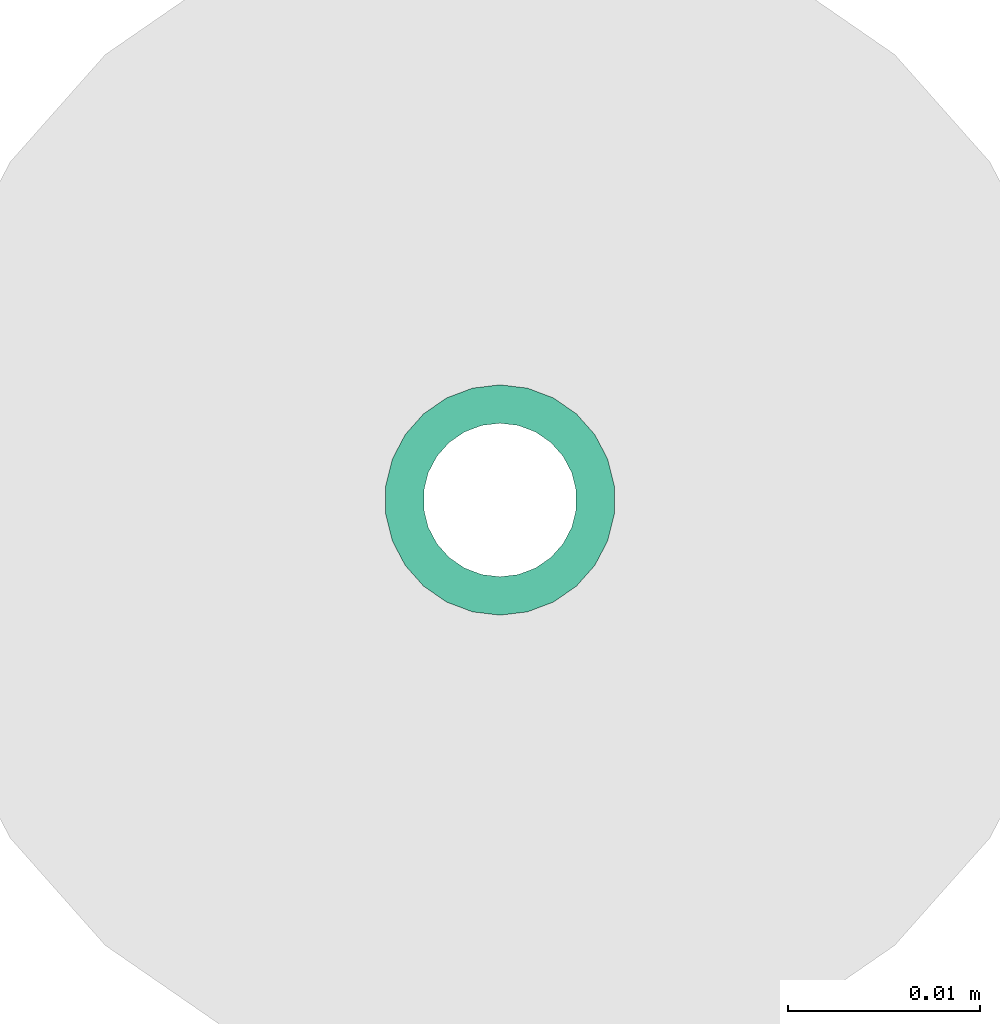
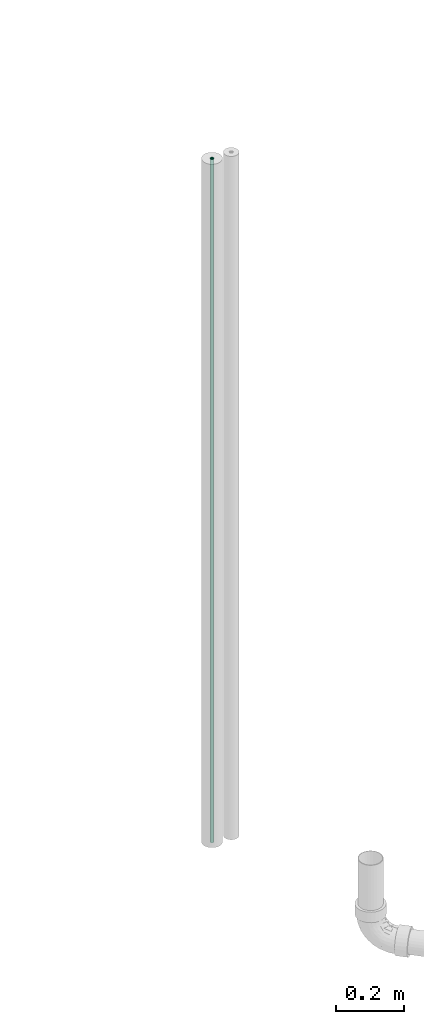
# One storey, part 27 of 108: 1 flow segment.
"""IFC2X3 building model written with IfcOpenShell, lengths in millimetres."""

from ifc_helpers import new_model, entity, si_unit, converted_unit, derived_unit, direction, frame, origin_with_axes, origin_2d_with_axis, place, context, subcontext, project, spatial, hollow_circle, extrude, source, transform, mapped, type_object, element, save


model = new_model("IFC2X3")

# Units and contexts
model_context = context("Model", 3, precision=0.01, world=frame((0.0, 4.29681676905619e-09, 0.0)), true_north=direction((4.01073788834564e-13, 1.0)))
plan_context = context("Plan", 3, precision=0.01, world=frame((0.0, 4.29681676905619e-09, 0.0)), true_north=direction((4.01073788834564e-13, 1.0)))
body_context = subcontext(model_context, "Body", "Model", "MODEL_VIEW")
ifc_project = project(units=[converted_unit("PLANEANGLEUNIT", "DEGREE", entity("IfcPositiveLengthMeasure", 0.0174532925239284), si_unit("PLANEANGLEUNIT", "RADIAN"), dimensions=[0, 0, 0, 0, 0, 0, 0]), si_unit("AREAUNIT", "SQUARE_METRE"), si_unit("LENGTHUNIT", "METRE", prefix="MILLI"), si_unit("MASSUNIT", "GRAM", prefix="KILO"), si_unit("POWERUNIT", "WATT"), si_unit("PRESSUREUNIT", "PASCAL", prefix="KILO"), si_unit("FORCEUNIT", "NEWTON", prefix="KILO"), si_unit("ELECTRICVOLTAGEUNIT", "VOLT"), si_unit("ELECTRICCURRENTUNIT", "AMPERE"), si_unit("THERMODYNAMICTEMPERATUREUNIT", "DEGREE_CELSIUS"), si_unit("TIMEUNIT", "SECOND"), si_unit("VOLUMEUNIT", "CUBIC_METRE"), derived_unit("LINEARVELOCITYUNIT", [(si_unit("LENGTHUNIT", "METRE"), 1), (si_unit("TIMEUNIT", "SECOND"), -1)]), derived_unit("VOLUMETRICFLOWRATEUNIT", [(si_unit("VOLUMEUNIT", "CUBIC_METRE"), 1), (si_unit("TIMEUNIT", "SECOND"), -1)]), derived_unit("THERMALTRANSMITTANCEUNIT", [(si_unit("POWERUNIT", "WATT"), 1), (si_unit("THERMODYNAMICTEMPERATUREUNIT", "KELVIN"), -1), (si_unit("AREAUNIT", "SQUARE_METRE"), -1)]), derived_unit("SOUNDPRESSUREUNIT", [(si_unit("PRESSUREUNIT", "PASCAL"), 1)])], contexts=[model_context, plan_context])

# Site, building, storey
site_placement = place(None, frame((0.0, -4.29681676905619e-09, 0.0), z_axis=(0.0, 0.0, 1.0), x_axis=(1.0, 0.0, 0.0)))
site = spatial("IfcSite", under=ifc_project, at=site_placement, CompositionType="ELEMENT")
building_placement = place(site_placement, frame((0.0, 4.29681676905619e-09, 0.0), z_axis=(0.0, 0.0, 1.0), x_axis=(1.0, 0.0, 0.0)))
building = spatial("IfcBuilding", under=site, at=building_placement, Name="mc-building", CompositionType="ELEMENT")
storey_placement = place(building_placement, frame((0.0, 0.0, 210200.0), z_axis=(0.0, 0.0, 1.0), x_axis=(1.0, 0.0, 0.0)))
storey = spatial("IfcBuildingStorey", under=building, at=storey_placement, Name="Nivå F - 0,7 m", CompositionType="ELEMENT", Elevation=210200.0)

# Flow segment
pipe_segment_type = type_object("IfcPipeSegmentType", Name="Kobberrør", PredefinedType="RIGIDSEGMENT")
shared_shape = source(origin_with_axes(), body_context, "Body", "SweptSolid", [
    extrude(hollow_circle(Radius=6.0, WallThickness=2.0, at=origin_2d_with_axis()), frame((0.0, 0.0, 0.0), z_axis=(1.0, 0.0, 0.0), x_axis=(0.0, 1.0, 0.0)), (0.0, 0.0, 1.0), 2440.0),
])
flow_segment_placement = place(storey_placement, frame((333820.47035, 462052.00941, 550.0), z_axis=(1.0, 0.0, 0.0), x_axis=(0.0, 0.0, 1.0)))
element("IfcFlowSegment", 1, at=flow_segment_placement, inside=storey, type_object=pipe_segment_type, Name="Kobberrør", context=body_context, shape_type="MappedRepresentation", body=[
    mapped(shared_shape, transform((0.0, 0.0, 0.0), scale=1.0)),
])

save(model, "model.ifc")
